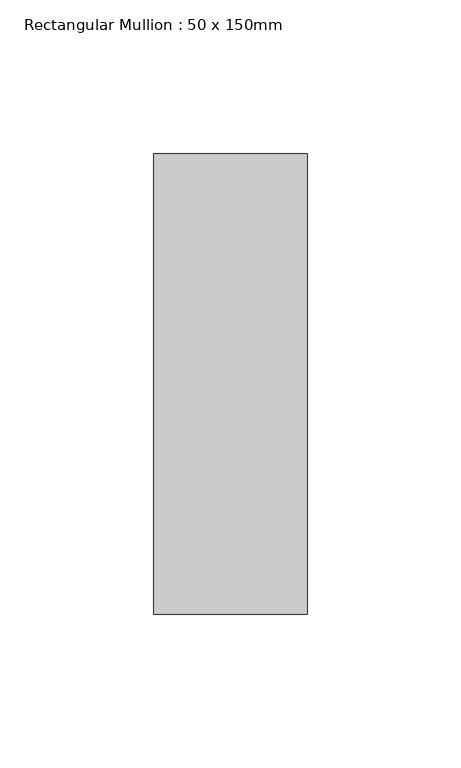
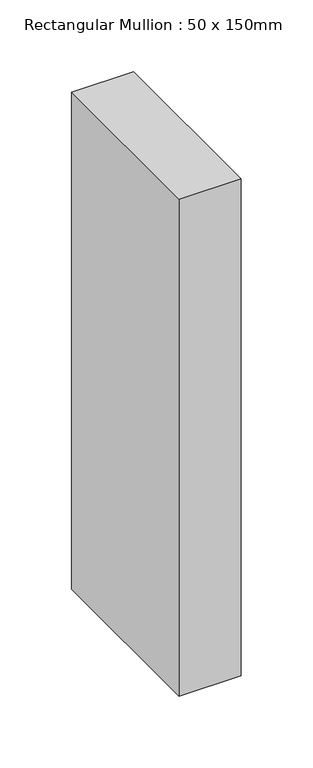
"""IFC4 building model written with IfcOpenShell, lengths in millimetres: member geometry, Rectangular Mullion : 50 x 150mm."""

from ifc_helpers import new_model, si_unit, frame, origin, place, context, project, spatial, polyline, outline, extrude, source, transform, mapped, element, save


def rectangular_mullion_50_x_150mm_cb3b9d87(model_context):
    return source(origin(), model_context, "Body", "SweptSolid", [
        extrude(outline(polyline([(25.0, 75.0), (25.0, -75.0), (-25.0, -75.0), (-25.0, 75.0), (25.0, 75.0)])), frame((0.0, 0.0, -422.846895), z_axis=(0.0, 0.0, 1.0), x_axis=(1.0, 0.0, 0.0)), (0.0, 0.0, 1.0), 422.846895),
    ])


if __name__ == "__main__":
    model = new_model("IFC4")
    model_context = context("Model", 3, world=origin())
    ifc_project = project(units=[si_unit("LENGTHUNIT", "METRE", prefix="MILLI")], contexts=[model_context])
    site = spatial("IfcSite", under=ifc_project)
    building = spatial("IfcBuilding", under=site)
    placement = place(None, origin())
    rectangular_mullion_50_x_150mm_shape = rectangular_mullion_50_x_150mm_cb3b9d87(model_context)
    element("IfcMember", 1, ObjectType="Rectangular Mullion : 50 x 150mm", at=placement, inside=building, context=model_context, shape_type="MappedRepresentation", body=[
        mapped(rectangular_mullion_50_x_150mm_shape, transform((0.0, 0.0, 0.0), x_axis=(1.0, 0.0, 0.0), y_axis=(0.0, 1.0, 0.0), z_axis=(0.0, 0.0, 1.0))),
    ])
    save(model, "model.ifc")
